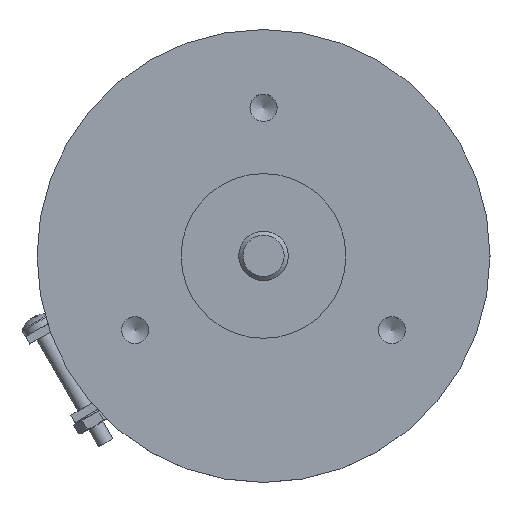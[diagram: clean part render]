
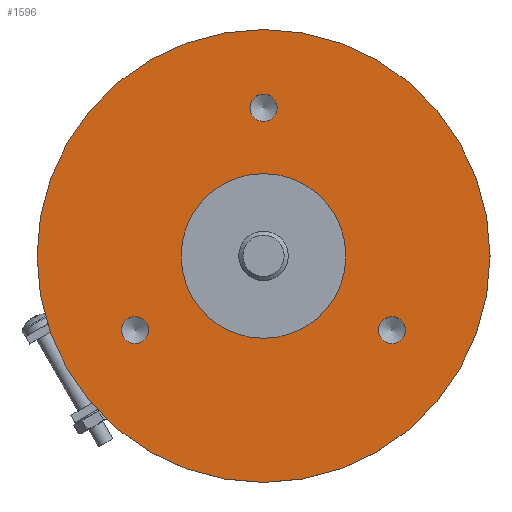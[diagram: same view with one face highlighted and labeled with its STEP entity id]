
A CAD part, top view. The second image highlights one B-rep face of the part: STEP entity #1596.
In plain terms, the highlighted planar face has unit normal (0, 0, 1).
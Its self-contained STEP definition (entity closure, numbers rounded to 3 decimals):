
#9 = AXIS2_PLACEMENT_3D ( 'NONE', #2130, #313, #1918 ) ;
#17 = EDGE_LOOP ( 'NONE', ( #2818 ) ) ;
#32 = EDGE_LOOP ( 'NONE', ( #2541 ) ) ;
#35 = CARTESIAN_POINT ( 'NONE',  ( 27.5, 0., -14. ) ) ;
#41 = CIRCLE ( 'NONE', #2816, 1.65 ) ;
#67 = DIRECTION ( 'NONE',  ( 1., 0., 0. ) ) ;
#168 = DIRECTION ( 'NONE',  ( 0., 0., -1. ) ) ;
#191 = CARTESIAN_POINT ( 'NONE',  ( -15.588, -9., -14. ) ) ;
#200 = AXIS2_PLACEMENT_3D ( 'NONE', #2228, #168, #2252 ) ;
#272 = CARTESIAN_POINT ( 'NONE',  ( 14.763, -10.429, -14. ) ) ;
#273 = ORIENTED_EDGE ( 'NONE', *, *, #710, .T. ) ;
#313 = DIRECTION ( 'NONE',  ( 0., 0., 1. ) ) ;
#407 = DIRECTION ( 'NONE',  ( 1., 0., 0. ) ) ;
#417 = ORIENTED_EDGE ( 'NONE', *, *, #621, .F. ) ;
#435 = ORIENTED_EDGE ( 'NONE', *, *, #2259, .F. ) ;
#486 = CARTESIAN_POINT ( 'NONE',  ( 1.65, 18., -14. ) ) ;
#506 = CIRCLE ( 'NONE', #2008, 27.5 ) ;
#562 = VERTEX_POINT ( 'NONE', #2072 ) ;
#621 = EDGE_CURVE ( 'NONE', #2267, #2267, #1767, .T. ) ;
#640 = FACE_BOUND ( 'NONE', #32, .T. ) ;
#654 = DIRECTION ( 'NONE',  ( -0.5, 0.866, 0. ) ) ;
#710 = EDGE_CURVE ( 'NONE', #2791, #2791, #506, .T. ) ;
#744 = EDGE_LOOP ( 'NONE', ( #435 ) ) ;
#890 = FACE_BOUND ( 'NONE', #2016, .T. ) ;
#1005 = FACE_OUTER_BOUND ( 'NONE', #1187, .T. ) ;
#1027 = EDGE_CURVE ( 'NONE', #1609, #1609, #41, .T. ) ;
#1187 = EDGE_LOOP ( 'NONE', ( #273 ) ) ;
#1341 = DIRECTION ( 'NONE',  ( 0., 0., 1. ) ) ;
#1596 = ADVANCED_FACE ( 'NONE', ( #2525, #890, #640, #2695, #1005 ), #2923, .F. ) ;
#1609 = VERTEX_POINT ( 'NONE', #2490 ) ;
#1680 = CARTESIAN_POINT ( 'NONE',  ( 0., 0., -14. ) ) ;
#1767 = CIRCLE ( 'NONE', #1959, 1.65 ) ;
#1776 = CARTESIAN_POINT ( 'NONE',  ( 0., 0., -14. ) ) ;
#1842 = DIRECTION ( 'NONE',  ( -0.5, -0.866, 0. ) ) ;
#1873 = CARTESIAN_POINT ( 'NONE',  ( 15.588, -9., -14. ) ) ;
#1918 = DIRECTION ( 'NONE',  ( 1., 0., 0. ) ) ;
#1959 = AXIS2_PLACEMENT_3D ( 'NONE', #1873, #2320, #1842 ) ;
#2008 = AXIS2_PLACEMENT_3D ( 'NONE', #1680, #2817, #67 ) ;
#2015 = AXIS2_PLACEMENT_3D ( 'NONE', #1776, #2679, #407 ) ;
#2016 = EDGE_LOOP ( 'NONE', ( #417 ) ) ;
#2072 = CARTESIAN_POINT ( 'NONE',  ( 10., 0., -14. ) ) ;
#2130 = CARTESIAN_POINT ( 'NONE',  ( 0., 18., -14. ) ) ;
#2195 = VERTEX_POINT ( 'NONE', #486 ) ;
#2228 = CARTESIAN_POINT ( 'NONE',  ( 0., 10., -14. ) ) ;
#2252 = DIRECTION ( 'NONE',  ( -1., 0., 0. ) ) ;
#2259 = EDGE_CURVE ( 'NONE', #562, #562, #2873, .T. ) ;
#2267 = VERTEX_POINT ( 'NONE', #272 ) ;
#2320 = DIRECTION ( 'NONE',  ( 0., 0., 1. ) ) ;
#2490 = CARTESIAN_POINT ( 'NONE',  ( -16.413, -7.571, -14. ) ) ;
#2525 = FACE_BOUND ( 'NONE', #17, .T. ) ;
#2541 = ORIENTED_EDGE ( 'NONE', *, *, #2556, .F. ) ;
#2556 = EDGE_CURVE ( 'NONE', #2195, #2195, #2683, .T. ) ;
#2679 = DIRECTION ( 'NONE',  ( 0., 0., 1. ) ) ;
#2683 = CIRCLE ( 'NONE', #9, 1.65 ) ;
#2695 = FACE_BOUND ( 'NONE', #744, .T. ) ;
#2791 = VERTEX_POINT ( 'NONE', #35 ) ;
#2816 = AXIS2_PLACEMENT_3D ( 'NONE', #191, #1341, #654 ) ;
#2817 = DIRECTION ( 'NONE',  ( 0., 0., 1. ) ) ;
#2818 = ORIENTED_EDGE ( 'NONE', *, *, #1027, .F. ) ;
#2873 = CIRCLE ( 'NONE', #2015, 10. ) ;
#2923 = PLANE ( 'NONE',  #200 ) ;
